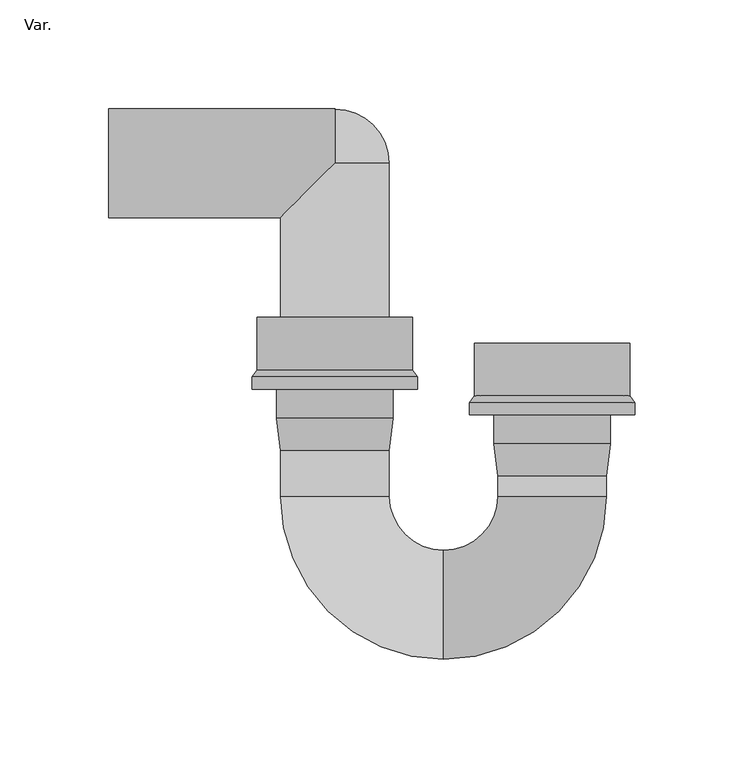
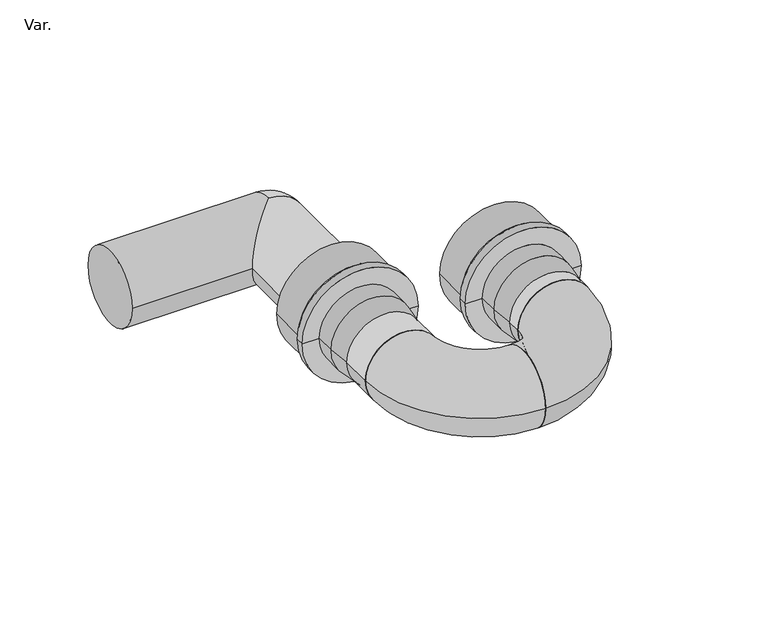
"""IFC4 building model written with IfcOpenShell, lengths in millimetres: pipe fitting geometry, PIF_HDPE p trap_Akatherm : Var.."""

from ifc_helpers import new_model, si_unit, point, frame, origin, place, context, project, spatial, polyline, circle_curve, ellipse_curve, trimmed, source, transform, mapped, element, save
from ifc_brep_helpers import plane_surface, cylinder_surface, revolved_surface, advanced_brep


def var_9c65db2d(model_context):
    return source(origin(), model_context, "Body", "AdvancedBrep", [
        advanced_brep(
        [(-100.0, 0.0, 25.0), (-75.0, 0.0, 0.0), (-100.0, 0.0, -25.0), (-125.0, -153.0, 0.0), (-75.0, -153.0, 0.0), (-75.0, -132.15, 0.0), (-125.0, -132.15, 0.0), (-75.0, -70.85, 0.0), (-125.0, -25.0, 0.0), (-125.0, -70.85, 0.0), (-64.25, -70.85, 0.0), (-135.75, -70.85, 0.0), (-126.75, -117.15, 0.0), (-73.25, -117.15, 0.0), (-126.75, -103.85, 0.0), (-73.25, -103.85, 0.0), (-138.0, -103.85, 0.0), (-62.0, -103.85, 0.0), (-138.0, -98.25, 0.0), (-62.0, -98.25, 0.0), (-135.75, -95.15, 0.0), (-64.25, -95.15, 0.0), (-204.0, 25.0, 0.0), (-204.0, -25.0, 0.0), (-100.0, 25.0, 0.0)],
        [
            (0, 1, circle_curve(frame((-100.0, 0.0, 0.0), z_axis=(0.0, 1.0, 0.0), x_axis=(1.0, 0.0, 0.0)), 25.0)),
            (1, 2, circle_curve(frame((-100.0, 0.0, 0.0), z_axis=(0.0, 1.0, 0.0), x_axis=(1.0, 0.0, 0.0)), 25.0)),
            (2, 0),
            (3, 4, circle_curve(frame((-100.0, -153.0, 0.0), z_axis=(0.0, -1.0, 0.0), x_axis=(1.0, 0.0, 0.0)), 25.0)),
            (4, 3, circle_curve(frame((-100.0, -153.0, 0.0), z_axis=(0.0, -1.0, 0.0), x_axis=(1.0, 0.0, 0.0)), 25.0)),
            (4, 5),
            (5, 6, circle_curve(frame((-100.0, -132.15, 0.0), z_axis=(0.0, -1.0, 0.0), x_axis=(1.0, 0.0, 0.0)), 25.0)),
            (6, 3),
            (7, 1),
            (0, 8, ellipse_curve(frame((-100.0, 0.0, 0.0), z_axis=(0.70710678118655, -0.707106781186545, 0.0), x_axis=(-0.707106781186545, -0.70710678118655, 0.0)), 35.3553391, 25.0)),
            (8, 9),
            (9, 7, circle_curve(frame((-100.0, -70.85, 0.0), z_axis=(0.0, 1.0, 0.0), x_axis=(1.0, 0.0, 0.0)), 25.0)),
            (6, 5, circle_curve(frame((-100.0, -132.15, 0.0), z_axis=(0.0, -1.0, 0.0), x_axis=(1.0, 0.0, 0.0)), 25.0)),
            (7, 9, circle_curve(frame((-100.0, -70.85, 0.0), z_axis=(0.0, 1.0, 0.0), x_axis=(1.0, 0.0, 0.0)), 25.0)),
            (8, 2, ellipse_curve(frame((-100.0, 0.0, 0.0), z_axis=(0.70710678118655, -0.707106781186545, 0.0), x_axis=(-0.707106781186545, -0.70710678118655, 0.0)), 35.3553391, 25.0)),
            (10, 11, circle_curve(frame((-100.0, -70.85, 0.0), z_axis=(0.0, 1.0, 0.0), x_axis=(1.0, 0.0, 0.0)), 35.75)),
            (11, 9),
            (7, 10),
            (11, 10, circle_curve(frame((-100.0, -70.85, 0.0), z_axis=(0.0, 1.0, 0.0), x_axis=(1.0, 0.0, 0.0)), 35.75)),
            (12, 13, circle_curve(frame((-100.0, -117.15, 0.0), z_axis=(0.0, -1.0, 0.0), x_axis=(1.0, 0.0, 0.0)), 26.75)),
            (13, 5),
            (6, 12),
            (13, 12, circle_curve(frame((-100.0, -117.15, 0.0), z_axis=(0.0, -1.0, 0.0), x_axis=(1.0, 0.0, 0.0)), 26.75)),
            (12, 14),
            (14, 15, circle_curve(frame((-100.0, -103.85, 0.0), z_axis=(0.0, -1.0, 0.0), x_axis=(1.0, 0.0, 0.0)), 26.75)),
            (15, 13),
            (15, 14, circle_curve(frame((-100.0, -103.85, 0.0), z_axis=(0.0, -1.0, 0.0), x_axis=(1.0, 0.0, 0.0)), 26.75)),
            (14, 16),
            (16, 17, circle_curve(frame((-100.0, -103.85, 0.0), z_axis=(0.0, -1.0, 0.0), x_axis=(1.0, 0.0, 0.0)), 38.0)),
            (17, 15),
            (17, 16, circle_curve(frame((-100.0, -103.85, 0.0), z_axis=(0.0, -1.0, 0.0), x_axis=(1.0, 0.0, 0.0)), 38.0)),
            (16, 18),
            (18, 19, circle_curve(frame((-100.0, -98.25, 0.0), z_axis=(0.0, -1.0, 0.0), x_axis=(1.0, 0.0, 0.0)), 38.0)),
            (19, 17),
            (19, 18, circle_curve(frame((-100.0, -98.25, 0.0), z_axis=(0.0, -1.0, 0.0), x_axis=(1.0, 0.0, 0.0)), 38.0)),
            (18, 20),
            (20, 21, circle_curve(frame((-100.0, -95.15, 0.0), z_axis=(0.0, -1.0, 0.0), x_axis=(1.0, 0.0, 0.0)), 35.75)),
            (21, 19),
            (21, 20, circle_curve(frame((-100.0, -95.15, 0.0), z_axis=(0.0, -1.0, 0.0), x_axis=(1.0, 0.0, 0.0)), 35.75)),
            (10, 21),
            (20, 11),
            (22, 23, circle_curve(frame((-204.0, 0.0, 0.0), z_axis=(-1.0, 0.0, 0.0), x_axis=(0.0, 0.0, -1.0)), 25.0)),
            (23, 22, circle_curve(frame((-204.0, 0.0, 0.0), z_axis=(-1.0, 0.0, 0.0), x_axis=(0.0, 0.0, 1.0)), 25.0)),
            (24, 0, circle_curve(frame((-100.0, 0.0, 0.0), z_axis=(1.0, 0.0, 0.0), x_axis=(0.0, 0.0, 1.0)), 25.0)),
            (2, 24, circle_curve(frame((-100.0, 0.0, 0.0), z_axis=(1.0, 0.0, 0.0), x_axis=(0.0, 0.0, -1.0)), 25.0)),
            (22, 24),
            (8, 23),
        ],
        [
            plane_surface(frame((-75.0, 0.0, 0.0), z_axis=(0.0, 1.0, 0.0), x_axis=(0.0, 0.0, -1.0))),
            plane_surface(frame((-75.0, -153.0, 0.0), z_axis=(0.0, -1.0, 0.0), x_axis=(0.0, 0.0, 1.0))),
            cylinder_surface(frame((-100.0, 0.0, 0.0), z_axis=(0.0, -1.0, 0.0), x_axis=(1.0, 0.0, 0.0)), 25.0),
            plane_surface(frame((-100.0, -70.85, 0.0), z_axis=(0.0, 1.0, 0.0), x_axis=(1.0, 0.0, 0.0))),
            revolved_surface(polyline([(-75.0, -132.15, 0.0), (-73.25, -117.15, 0.0)]), (-100.0, -60.85, 0.0), (0.0, 1.0, 0.0)),
            cylinder_surface(frame((-100.0, -60.85, 0.0), z_axis=(0.0, 1.0, 0.0), x_axis=(1.0, 0.0, 0.0)), 26.75),
            plane_surface(frame((-100.0, -103.85, 0.0), z_axis=(0.0, -1.0, 0.0), x_axis=(1.0, 0.0, 0.0))),
            cylinder_surface(frame((-100.0, -60.85, 0.0), z_axis=(0.0, 1.0, 0.0), x_axis=(1.0, 0.0, 0.0)), 38.0),
            revolved_surface(polyline([(-62.0, -98.25, 0.0), (-64.25, -95.15, 0.0)]), (-100.0, -60.85, 0.0), (0.0, 1.0, 0.0)),
            cylinder_surface(frame((-100.0, -60.85, 0.0), z_axis=(0.0, 1.0, 0.0), x_axis=(1.0, 0.0, 0.0)), 35.75),
            plane_surface(frame((-204.0, 0.0, 0.0), z_axis=(-1.0, 0.0, 0.0), x_axis=(0.0, 0.0, -1.0))),
            plane_surface(frame((-100.0, 0.0, 0.0), z_axis=(1.0, 0.0, 0.0), x_axis=(0.0, 0.0, -1.0))),
            cylinder_surface(frame((-100.0, 0.0, 0.0), z_axis=(-1.0, 0.0, 0.0), x_axis=(0.0, 0.0, -1.0)), 25.0),
            cylinder_surface(frame((-100.0, 0.0, 0.0), z_axis=(-1.0, 0.0, 0.0), x_axis=(0.0, 0.0, 1.0)), 25.0),
        ],
        [
            (0, [[1, 2, 3]]),
            (1, [[4, 5]]),
            (2, [[-5, 6, 7, 8]]),
            (2, [[9, -1, 10, 11, 12]]),
            (2, [[-4, -8, 13, -6]]),
            (2, [[-9, 14, -11, 15, -2]]),
            (3, [[16, 17, -14, 18]]),
            (3, [[19, -18, -12, -17]]),
            (4, [[20, 21, -13, 22]]),
            (4, [[-21, 23, -22, -7]]),
            (5, [[-20, 24, 25, 26]]),
            (5, [[-23, -26, 27, -24]]),
            (6, [[-25, 28, 29, 30]]),
            (6, [[-27, -30, 31, -28]]),
            (7, [[-29, 32, 33, 34]]),
            (7, [[-31, -34, 35, -32]]),
            (8, [[-33, 36, 37, 38]]),
            (8, [[-35, -38, 39, -36]]),
            (9, [[-16, 40, -37, 41]]),
            (9, [[-19, -41, -39, -40]]),
            (10, [[42, 43]]),
            (11, [[44, -3, 45]]),
            (12, [[-42, 46, -45, -15, 47]]),
            (13, [[-43, -47, -10, -44, -46]]),
        ],
    ),
        advanced_brep(
        [(-25.0, -153.0, 0.0), (25.0, -153.0, 0.0), (25.0, -144.0, 0.0), (-25.0, -144.0, 0.0), (0.0, -82.7, 0.0), (35.75, -82.7, 0.0), (-35.75, -82.7, 0.0), (-26.75, -129.0, 0.0), (26.75, -129.0, 0.0), (-26.75, -115.7, 0.0), (26.75, -115.7, 0.0), (-38.0, -115.7, 0.0), (38.0, -115.7, 0.0), (-38.0, -110.1, 0.0), (38.0, -110.1, 0.0), (-35.75, -107.0, 0.0), (35.75, -107.0, 0.0)],
        [
            (0, 1, circle_curve(frame((0.0, -153.0, 0.0), z_axis=(0.0, -1.0, 0.0), x_axis=(1.0, 0.0, 0.0)), 25.0)),
            (1, 0, circle_curve(frame((0.0, -153.0, 0.0), z_axis=(0.0, -1.0, 0.0), x_axis=(1.0, 0.0, 0.0)), 25.0)),
            (1, 2),
            (2, 3, circle_curve(frame((0.0, -144.0, 0.0), z_axis=(0.0, -1.0, 0.0), x_axis=(1.0, 0.0, 0.0)), 25.0)),
            (3, 0),
            (3, 2, circle_curve(frame((0.0, -144.0, 0.0), z_axis=(0.0, -1.0, 0.0), x_axis=(1.0, 0.0, 0.0)), 25.0)),
            (4, 5),
            (5, 6, circle_curve(frame((0.0, -82.7, 0.0), z_axis=(0.0, 1.0, 0.0), x_axis=(1.0, 0.0, 0.0)), 35.75)),
            (6, 4),
            (6, 5, circle_curve(frame((0.0, -82.7, 0.0), z_axis=(0.0, 1.0, 0.0), x_axis=(1.0, 0.0, 0.0)), 35.75)),
            (7, 8, circle_curve(frame((0.0, -129.0, 0.0), z_axis=(0.0, -1.0, 0.0), x_axis=(1.0, 0.0, 0.0)), 26.75)),
            (8, 2),
            (3, 7),
            (8, 7, circle_curve(frame((0.0, -129.0, 0.0), z_axis=(0.0, -1.0, 0.0), x_axis=(1.0, 0.0, 0.0)), 26.75)),
            (7, 9),
            (9, 10, circle_curve(frame((0.0, -115.7, 0.0), z_axis=(0.0, -1.0, 0.0), x_axis=(1.0, 0.0, 0.0)), 26.75)),
            (10, 8),
            (10, 9, circle_curve(frame((0.0, -115.7, 0.0), z_axis=(0.0, -1.0, 0.0), x_axis=(1.0, 0.0, 0.0)), 26.75)),
            (9, 11),
            (11, 12, circle_curve(frame((0.0, -115.7, 0.0), z_axis=(0.0, -1.0, 0.0), x_axis=(1.0, 0.0, 0.0)), 38.0)),
            (12, 10),
            (12, 11, circle_curve(frame((0.0, -115.7, 0.0), z_axis=(0.0, -1.0, 0.0), x_axis=(1.0, 0.0, 0.0)), 38.0)),
            (11, 13),
            (13, 14, circle_curve(frame((0.0, -110.1, 0.0), z_axis=(0.0, -1.0, 0.0), x_axis=(1.0, 0.0, 0.0)), 38.0)),
            (14, 12),
            (14, 13, circle_curve(frame((0.0, -110.1, 0.0), z_axis=(0.0, -1.0, 0.0), x_axis=(1.0, 0.0, 0.0)), 38.0)),
            (13, 15),
            (15, 16, circle_curve(frame((0.0, -107.0, 0.0), z_axis=(0.0, -1.0, 0.0), x_axis=(1.0, 0.0, 0.0)), 35.75)),
            (16, 14),
            (16, 15, circle_curve(frame((0.0, -107.0, 0.0), z_axis=(0.0, -1.0, 0.0), x_axis=(1.0, 0.0, 0.0)), 35.75)),
            (5, 16),
            (15, 6),
        ],
        [
            plane_surface(frame((25.0, -153.0, 0.0), z_axis=(0.0, -1.0, 0.0), x_axis=(0.0, 0.0, 1.0))),
            cylinder_surface(frame((0.0, -130.0, 0.0), z_axis=(0.0, -1.0, 0.0), x_axis=(1.0, 0.0, 0.0)), 25.0),
            plane_surface(frame((0.0, -82.7, 0.0), z_axis=(0.0, 1.0, 0.0), x_axis=(1.0, 0.0, 0.0))),
            revolved_surface(polyline([(25.0, -144.0, 0.0), (26.75, -129.0, 0.0)]), (0.0, -178.0, 0.0), (0.0, 1.0, 0.0)),
            cylinder_surface(frame((0.0, -178.0, 0.0), z_axis=(0.0, 1.0, 0.0), x_axis=(1.0, 0.0, 0.0)), 26.75),
            plane_surface(frame((0.0, -115.7, 0.0), z_axis=(0.0, -1.0, 0.0), x_axis=(1.0, 0.0, 0.0))),
            cylinder_surface(frame((0.0, -178.0, 0.0), z_axis=(0.0, 1.0, 0.0), x_axis=(1.0, 0.0, 0.0)), 38.0),
            revolved_surface(polyline([(38.0, -110.1, 0.0), (35.75, -107.0, 0.0)]), (0.0, -178.0, 0.0), (0.0, 1.0, 0.0)),
            cylinder_surface(frame((0.0, -178.0, 0.0), z_axis=(0.0, 1.0, 0.0), x_axis=(1.0, 0.0, 0.0)), 35.75),
        ],
        [
            (0, [[1, 2]]),
            (1, [[-2, 3, 4, 5]]),
            (1, [[-1, -5, 6, -3]]),
            (2, [[7, 8, 9]]),
            (2, [[-7, -9, 10]]),
            (3, [[11, 12, -6, 13]]),
            (3, [[-12, 14, -13, -4]]),
            (4, [[-11, 15, 16, 17]]),
            (4, [[-14, -17, 18, -15]]),
            (5, [[-16, 19, 20, 21]]),
            (5, [[-18, -21, 22, -19]]),
            (6, [[-20, 23, 24, 25]]),
            (6, [[-22, -25, 26, -23]]),
            (7, [[-24, 27, 28, 29]]),
            (7, [[-26, -29, 30, -27]]),
            (8, [[-8, 31, -28, 32]]),
            (8, [[-10, -32, -30, -31]]),
        ],
    ),
        advanced_brep(
        [(-100.0, 0.0, 25.0), (-100.0, 0.0, -25.0)],
        [
            (0, 1, circle_curve(frame((-100.0, 0.0, 0.0), z_axis=(-1.0, 0.0, 0.0), x_axis=(0.0, 0.0, 1.0)), 25.0)),
            (1, 0),
            (1, 0, circle_curve(frame((-100.0, 0.0, 0.0), z_axis=(0.0, -1.0, 0.0), x_axis=(0.0, 0.0, 1.0)), 25.0)),
        ],
        [
            plane_surface(frame((-100.0, 0.0, -41.8879274), z_axis=(-1.0, 0.0, 0.0), x_axis=(0.0, 1.0, 0.0))),
            plane_surface(frame((-100.0, 0.0, -41.8879274), z_axis=(0.0, -1.0, 0.0), x_axis=(1.0, 0.0, 0.0))),
            revolved_surface(trimmed(ellipse_curve(frame((-100.0, 0.0, 0.0), z_axis=(1.0, 0.0, 0.0), x_axis=(0.0, 0.0, 1.0)), 25.0, 25.0), [point((-100.0, 0.0, -25.0))], [point((-100.0, 0.0, 25.0))], True, "CARTESIAN"), (-100.0, 0.0, -41.8879274), (0.0, 0.0, 1.0)),
        ],
        [
            (0, [[1, 2]]),
            (1, [[3, -2]]),
            (2, [[-1, -3]]),
        ],
    ),
        advanced_brep(
        [(-50.0, -228.0, 0.0), (-50.0, -178.0, 0.0), (25.0, -153.0, 0.0), (-25.0, -153.0, 0.0)],
        [
            (0, 1, circle_curve(frame((-50.0, -203.0, 0.0), z_axis=(-1.0, 0.0, 0.0), x_axis=(0.0, 1.0, 0.0)), 25.0)),
            (1, 0, circle_curve(frame((-50.0, -203.0, 0.0), z_axis=(-1.0, 0.0, 0.0), x_axis=(0.0, 1.0, 0.0)), 25.0)),
            (2, 3, circle_curve(frame((0.0, -153.0, 0.0), z_axis=(0.0, 1.0, 0.0), x_axis=(-1.0, 0.0, 0.0)), 25.0)),
            (3, 2, circle_curve(frame((0.0, -153.0, 0.0), z_axis=(0.0, 1.0, 0.0), x_axis=(-1.0, 0.0, 0.0)), 25.0)),
            (2, 0, circle_curve(frame((-50.0, -153.0, 0.0), z_axis=(0.0, 0.0, -1.0), x_axis=(0.0, -1.0, 0.0)), 75.0)),
            (1, 3, circle_curve(frame((-50.0, -153.0, 0.0), z_axis=(0.0, 0.0, 1.0), x_axis=(0.0, -1.0, 0.0)), 25.0)),
        ],
        [
            plane_surface(frame((-50.0, -203.0, 0.0), z_axis=(-1.0, 0.0, 0.0), x_axis=(0.0, 0.0, 1.0))),
            plane_surface(frame((0.0, -153.0, 0.0), z_axis=(0.0, 1.0, 0.0), x_axis=(0.0, 0.0, 1.0))),
            revolved_surface(trimmed(ellipse_curve(frame((-50.0, -203.0, 0.0), z_axis=(-1.0, 0.0, 0.0), x_axis=(0.0, 1.0, 0.0)), 25.0, 25.0), [point((-50.0, -178.0, 0.0))], [point((-50.0, -228.0, 0.0))], True, "CARTESIAN"), (-50.0, -153.0, 0.0), (0.0, 0.0, 1.0)),
            revolved_surface(trimmed(ellipse_curve(frame((-50.0, -203.0, 0.0), z_axis=(-1.0, 0.0, 0.0), x_axis=(0.0, 1.0, 0.0)), 25.0, 25.0), [point((-50.0, -228.0, 0.0))], [point((-50.0, -178.0, 0.0))], True, "CARTESIAN"), (-50.0, -153.0, 0.0), (0.0, 0.0, 1.0)),
        ],
        [
            (0, [[1, 2]]),
            (1, [[3, 4]]),
            (2, [[5, -2, 6, -3]]),
            (3, [[-6, -1, -5, -4]]),
        ],
    ),
        advanced_brep(
        [(-50.0, -178.0, 0.0), (-50.0, -228.0, 0.0), (-75.0, -153.0, 0.0), (-125.0, -153.0, 0.0)],
        [
            (0, 1, circle_curve(frame((-50.0, -203.0, 0.0), z_axis=(1.0, 0.0, 0.0), x_axis=(0.0, -1.0, 0.0)), 25.0)),
            (1, 0, circle_curve(frame((-50.0, -203.0, 0.0), z_axis=(1.0, 0.0, 0.0), x_axis=(0.0, -1.0, 0.0)), 25.0)),
            (2, 3, circle_curve(frame((-100.0, -153.0, 0.0), z_axis=(0.0, 1.0, 0.0), x_axis=(-1.0, 0.0, 0.0)), 25.0)),
            (3, 2, circle_curve(frame((-100.0, -153.0, 0.0), z_axis=(0.0, 1.0, 0.0), x_axis=(-1.0, 0.0, 0.0)), 25.0)),
            (3, 1, circle_curve(frame((-50.0, -153.0, 0.0), z_axis=(0.0, 0.0, 1.0), x_axis=(0.0, -1.0, 0.0)), 75.0)),
            (0, 2, circle_curve(frame((-50.0, -153.0, 0.0), z_axis=(0.0, 0.0, -1.0), x_axis=(0.0, -1.0, 0.0)), 25.0)),
        ],
        [
            plane_surface(frame((-50.0, -203.0, 0.0), z_axis=(1.0, 0.0, 0.0), x_axis=(0.0, 0.0, 1.0))),
            plane_surface(frame((-100.0, -153.0, 0.0), z_axis=(0.0, 1.0, 0.0), x_axis=(0.0, 0.0, 1.0))),
            revolved_surface(trimmed(ellipse_curve(frame((-50.0, -203.0, 0.0), z_axis=(1.0, 0.0, 0.0), x_axis=(0.0, -1.0, 0.0)), 25.0, 25.0), [point((-50.0, -178.0, 0.0))], [point((-50.0, -228.0, 0.0))], True, "CARTESIAN"), (-50.0, -153.0, 0.0), (0.0, 0.0, -1.0)),
            revolved_surface(trimmed(ellipse_curve(frame((-50.0, -203.0, 0.0), z_axis=(1.0, 0.0, 0.0), x_axis=(0.0, -1.0, 0.0)), 25.0, 25.0), [point((-50.0, -228.0, 0.0))], [point((-50.0, -178.0, 0.0))], True, "CARTESIAN"), (-50.0, -153.0, 0.0), (0.0, 0.0, -1.0)),
        ],
        [
            (0, [[1, 2]]),
            (1, [[3, 4]]),
            (2, [[5, -1, 6, -4]]),
            (3, [[-6, -2, -5, -3]]),
        ],
    ),
    ])


if __name__ == "__main__":
    model = new_model("IFC4")
    model_context = context("Model", 3, world=origin())
    ifc_project = project(units=[si_unit("LENGTHUNIT", "METRE", prefix="MILLI")], contexts=[model_context])
    site = spatial("IfcSite", under=ifc_project)
    building = spatial("IfcBuilding", under=site)
    placement = place(None, origin())
    var_shape = var_9c65db2d(model_context)
    element("IfcPipeFitting", 1, ObjectType="PIF_HDPE p trap_Akatherm : Var.", at=placement, inside=building, context=model_context, shape_type="MappedRepresentation", body=[
        mapped(var_shape, transform((0.0, 0.0, 0.0), x_axis=(1.0, 0.0, 0.0), y_axis=(0.0, 1.0, 0.0), z_axis=(0.0, 0.0, 1.0))),
    ])
    save(model, "model.ifc")
